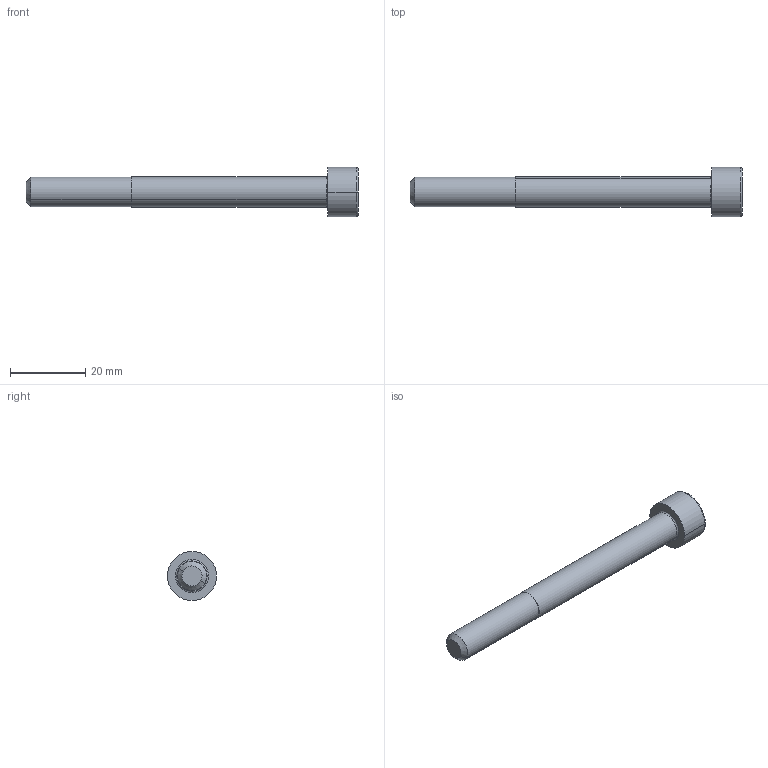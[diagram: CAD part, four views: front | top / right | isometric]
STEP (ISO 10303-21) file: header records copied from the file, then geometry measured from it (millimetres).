
FILE_DESCRIPTION(('CATIA V5 STEP Exchange','CAx-IF Rec.Pracs.--- Model Styling and Organization---1.5--- 2016-08-15','CAx-IF Rec.Pracs.---Supplemental Geometry---1.0---2011-11-01','CAx-IF Rec.Pracs.--- Composite Materials ---1.1---2010-07-15','CAx-IF Rec.Pracs.---External References---2.1---2005-01-19'),'2;1');
FILE_NAME('E:\WAT\Sprezarka\121_00_00_Tlocznik1\Tlocznik1_KPL\Tlocznik1_stp\EN ISO 4762 SCREW M8.stp','2023-08-01T08:49:44+00:00',('none'),('none'),'CATIA Version 5-6 Release 2022 SP3','CATIA V5 STEP AP214 v2','none');
FILE_SCHEMA(('AUTOMOTIVE_DESIGN { 1 0 10303 214 1 1 1 1 }'));
Length unit declared in the file: millimetre
Products named in the file (1): EN ISO 4762 SCREW M8
Bounding box: 88 x 13 x 13 mm (x, y, z)
Volume: 4849.1 mm3; surface area: 2645.1 mm2
Topology: 1 solids, 1 shells, 31 faces, 72 edges, 46 vertices
Faces by surface type: cylinder 12, plane 11, torus 4, cone 4
Entity records: 880 total; most frequent: CARTESIAN_POINT 203, ORIENTED_EDGE 144, DIRECTION 108, EDGE_CURVE 72, AXIS2_PLACEMENT_3D 59, VERTEX_POINT 46, CIRCLE 36, EDGE_LOOP 34
